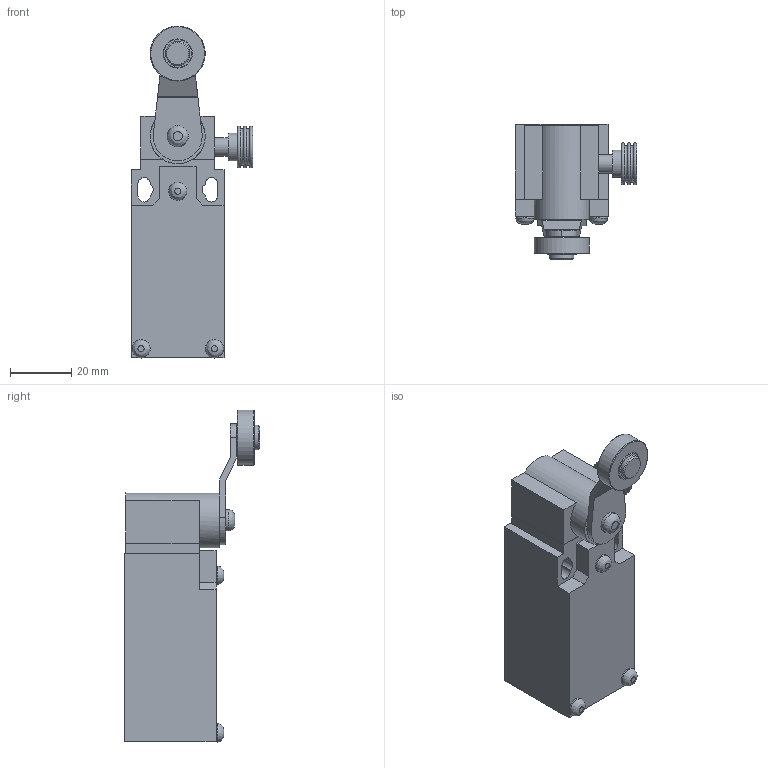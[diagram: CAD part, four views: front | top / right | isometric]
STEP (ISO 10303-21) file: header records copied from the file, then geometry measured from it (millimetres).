
FILE_DESCRIPTION((''),'2;1');
FILE_NAME('C:\Workarea\Disegni\Comepi\Catalogo\Stp\Finecorsa\AM1-R41.stp','2011-08-29T11:16:45',('Paolo'),(''),'Autodesk Inventor 2012','Autodesk Inventor 2012','');
FILE_SCHEMA(('AUTOMOTIVE_DESIGN { 1 0 10303 214 1 1 1 1 }'));
Length unit declared in the file: millimetre
Products named in the file (5): AM1-R41; AM1; R41; Rr; T41_2
Assembly tree (4 placements, depth 3):
  AM1-R41
    AM1
    R41
      Rr
      T41_2
Bounding box: 39.65 x 44.25 x 108.57 mm (x, y, z)
Volume: 64838.1 mm3; surface area: 17205.5 mm2
Topology: 3 solids, 3 shells, 102 faces, 233 edges, 149 vertices
Faces by surface type: plane 61, cylinder 25, torus 9, bspline 4, cone 3
Full cylindrical faces by diameter (mm): 6 x6, 7 x1, 8 x1, 9 x1, 18 x2, 20.4 x1
Entity records: 3059 total; most frequent: CARTESIAN_POINT 635, DIRECTION 488, ORIENTED_EDGE 404, EDGE_CURVE 202, AXIS2_PLACEMENT_3D 179, VERTEX_POINT 146, EDGE_LOOP 146, VECTOR 130
